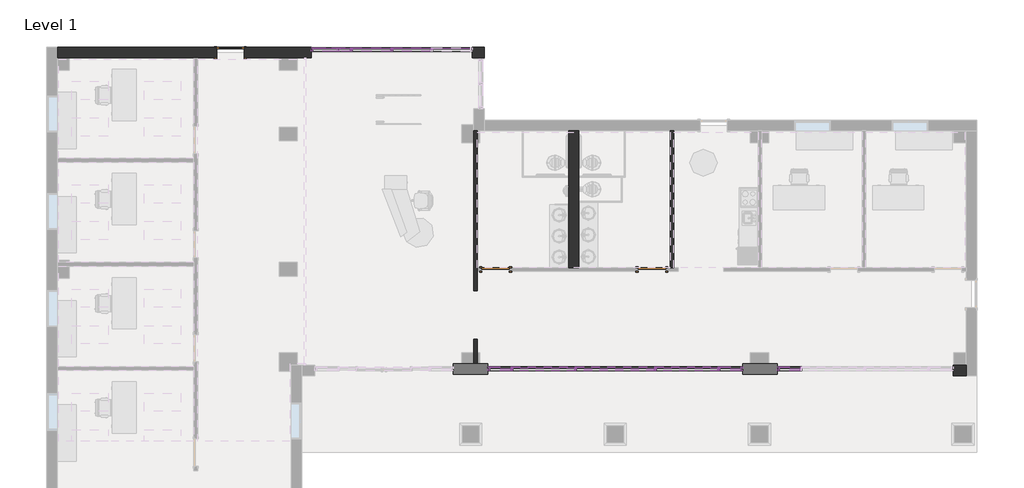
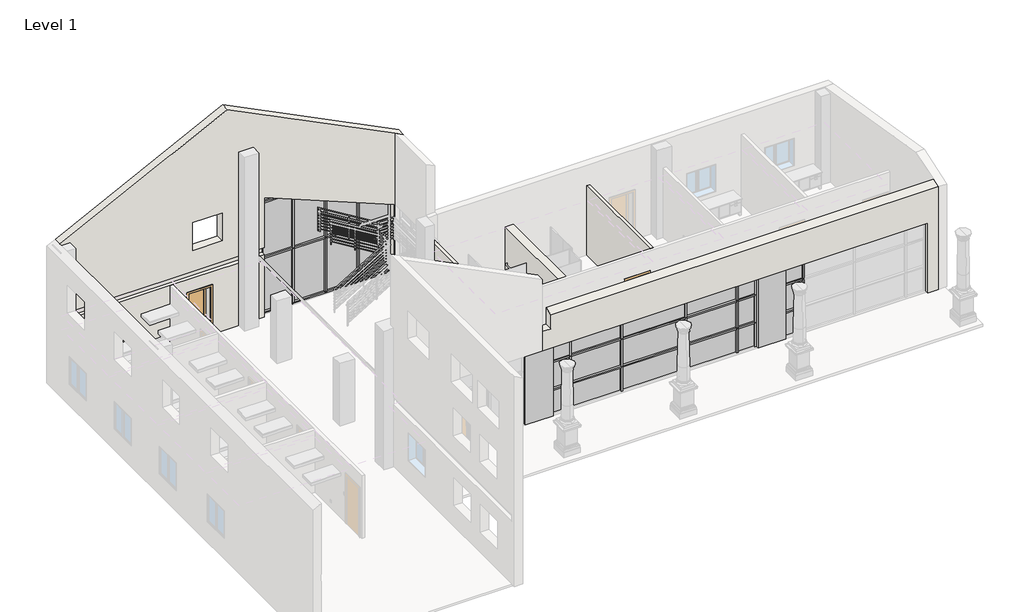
# One storey, part 2 of 8: 63 members, 29 plates, 6 walls, 3 doors.
"""IFC4 building model written with IfcOpenShell, lengths in millimetres."""

from ifc_helpers import new_model, si_unit, origin, origin_with_axes, place, context, project, spatial, polyline, outline, extrude, faceted_brep, transform, mapped, element, save
from components import door_eb9f8b14, door_88503111, door_2118299b, member_a715cb85, member_2b49869a, member_4f1c84db, member_e69b4e5a, member_c7c5a8a0, member_13dc6413, member_3374d9b6, member_830c086e, member_f0fea5a5, member_ee409385, member_d635bea1, member_5783932f, member_ba1b3d85, member_98b79ab6, member_3ca69e07, member_308ea782, member_d4faf497, member_0a1949f2, member_c8a9c9a2, member_c459f87c, member_c4c0bdfb, member_631b13d6, member_2dfc6920, system_panel_glazed_93fe6fa7, system_panel_glazed_6ce5e085, system_panel_glazed_63f474c4, system_panel_glazed_4b691734, system_panel_glazed_53b4157c, system_panel_glazed_7b5ce646, system_panel_glazed_2dd6ead6, system_panel_glazed_6caac039, system_panel_glazed_ef97d2b3, system_panel_glazed_72e0a84c, system_panel_glazed_84a4ac58, system_panel_glazed_729bb18e, system_panel_glazed_b58b5e35, system_panel_glazed_53edb0c8, system_panel_solid_6039f36e, system_panel_solid_0ed6c75d

model = new_model("IFC4")

# Units and contexts
model_context = context("Model", 3, world=origin())
ifc_project = project(units=[si_unit("LENGTHUNIT", "METRE", prefix="MILLI")], contexts=[model_context])

# Site, building, storey
site = spatial("IfcSite", under=ifc_project)
building = spatial("IfcBuilding", under=site)
storey = spatial("IfcBuildingStorey", under=building, Name="Level 1", Elevation=0.0)

# Doors
placement = place(None, origin())
door_shape = door_eb9f8b14(model_context)
element("IfcDoor", 1, ObjectType="Single-Flush : 36\" x 84\"", at=placement, inside=storey, context=model_context, shape_type="MappedRepresentation", body=[
    mapped(door_shape, transform((1075.2733448, 3496.4480424, 0.0), x_axis=(-1.0, 0.0, 0.0), y_axis=(0.0, -1.0, 0.0), z_axis=(0.0, 0.0, 1.0))),
])
door_2_shape = door_88503111(model_context)
element("IfcDoor", 2, ObjectType="Single-Flush : 36\" x 84\"", at=placement, inside=storey, context=model_context, shape_type="MappedRepresentation", body=[
    mapped(door_2_shape, transform((6294.9733448, 3496.4480424, 0.0), x_axis=(1.0, 0.0, 0.0), y_axis=(0.0, 1.0, 0.0), z_axis=(0.0, 0.0, 1.0))),
])
door_3_shape = door_2118299b(model_context)
element("IfcDoor", 3, ObjectType="Single-Glass 1 : 36\" x 84\"", at=placement, inside=storey, context=model_context, shape_type="MappedRepresentation", body=[
    mapped(door_3_shape, transform((-7789.3266552, 10744.9730424, 0.0), x_axis=(-1.0, 0.0, 0.0), y_axis=(0.0, -1.0, 0.0), z_axis=(0.0, 0.0, 1.0))),
])

# Members
member_shape = member_a715cb85(model_context)
element("IfcMember", 4, ObjectType="Rectangular Mullion : 2.5\" x 5\" Rectangular", at=placement, inside=storey, context=model_context, shape_type="MappedRepresentation", body=[
    mapped(member_shape, transform((1611.8483448, 175.3980424, 0.0), x_axis=(1.0, 0.0, 0.0), y_axis=(0.0, -1.0, 0.0), z_axis=(0.0, 0.0, -1.0))),
])
element("IfcMember", 5, ObjectType="Rectangular Mullion : 2.5\" x 5\" Rectangular", at=placement, inside=storey, context=model_context, shape_type="MappedRepresentation", body=[
    mapped(member_shape, transform((3745.4483448, 175.3980424, 0.0), x_axis=(1.0, 0.0, 0.0), y_axis=(0.0, -1.0, 0.0), z_axis=(0.0, 0.0, -1.0))),
])
element("IfcMember", 6, ObjectType="Rectangular Mullion : 2.5\" x 5\" Rectangular", at=placement, inside=storey, context=model_context, shape_type="MappedRepresentation", body=[
    mapped(member_shape, transform((6404.5108448, 175.3980424, 0.0), x_axis=(1.0, 0.0, 0.0), y_axis=(0.0, -1.0, 0.0), z_axis=(0.0, 0.0, -1.0))),
])
element("IfcMember", 7, ObjectType="Rectangular Mullion : 2.5\" x 5\" Rectangular", at=placement, inside=storey, context=model_context, shape_type="MappedRepresentation", body=[
    mapped(member_shape, transform((849.8483448, 175.3980424, 0.0), x_axis=(1.0, 0.0, 0.0), y_axis=(0.0, -1.0, 0.0), z_axis=(0.0, 0.0, -1.0))),
])
element("IfcMember", 8, ObjectType="Rectangular Mullion : 2.5\" x 5\" Rectangular", at=placement, inside=storey, context=model_context, shape_type="MappedRepresentation", body=[
    mapped(member_shape, transform((8538.1108448, 175.3980424, 0.0), x_axis=(1.0, 0.0, 0.0), y_axis=(0.0, -1.0, 0.0), z_axis=(0.0, 0.0, -1.0))),
])
element("IfcMember", 9, ObjectType="Rectangular Mullion : 2.5\" x 5\" Rectangular", at=placement, inside=storey, context=model_context, shape_type="MappedRepresentation", body=[
    mapped(member_shape, transform((9300.1108448, 175.3980424, 0.0), x_axis=(1.0, 0.0, 0.0), y_axis=(0.0, -1.0, 0.0), z_axis=(0.0, 0.0, -1.0))),
])
element("IfcMember", 10, ObjectType="Rectangular Mullion : 2.5\" x 5\" Rectangular", at=placement, inside=storey, context=model_context, shape_type="MappedRepresentation", body=[
    mapped(member_shape, transform((10519.3108448, 175.3980424, 0.0), x_axis=(1.0, 0.0, 0.0), y_axis=(0.0, -1.0, 0.0), z_axis=(0.0, 0.0, -1.0))),
])
element("IfcMember", 11, ObjectType="Rectangular Mullion : 2.5\" x 5\" Rectangular", at=placement, inside=storey, context=model_context, shape_type="MappedRepresentation", body=[
    mapped(member_shape, transform((11281.3108448, 175.3980424, 0.0), x_axis=(1.0, 0.0, 0.0), y_axis=(0.0, -1.0, 0.0), z_axis=(0.0, 0.0, -1.0))),
])
member_2_shape = member_2b49869a(model_context)
element("IfcMember", 12, ObjectType="Rectangular Mullion : 2.5\" x 5\" Rectangular", at=placement, inside=storey, context=model_context, shape_type="MappedRepresentation", body=[
    mapped(member_2_shape, transform((1611.8483448, 175.3980424, 1066.8), x_axis=(1.0, 0.0, 0.0), y_axis=(0.0, -1.0, 0.0), z_axis=(0.0, 0.0, -1.0))),
])
element("IfcMember", 13, ObjectType="Rectangular Mullion : 2.5\" x 5\" Rectangular", at=placement, inside=storey, context=model_context, shape_type="MappedRepresentation", body=[
    mapped(member_2_shape, transform((3745.4483448, 175.3980424, 1066.8), x_axis=(1.0, 0.0, 0.0), y_axis=(0.0, -1.0, 0.0), z_axis=(0.0, 0.0, -1.0))),
])
element("IfcMember", 14, ObjectType="Rectangular Mullion : 2.5\" x 5\" Rectangular", at=placement, inside=storey, context=model_context, shape_type="MappedRepresentation", body=[
    mapped(member_2_shape, transform((6404.5108448, 175.3980424, 1066.8), x_axis=(1.0, 0.0, 0.0), y_axis=(0.0, -1.0, 0.0), z_axis=(0.0, 0.0, -1.0))),
])
element("IfcMember", 15, ObjectType="Rectangular Mullion : 2.5\" x 5\" Rectangular", at=placement, inside=storey, context=model_context, shape_type="MappedRepresentation", body=[
    mapped(member_2_shape, transform((849.8483448, 175.3980424, 1066.8), x_axis=(1.0, 0.0, 0.0), y_axis=(0.0, -1.0, 0.0), z_axis=(0.0, 0.0, -1.0))),
])
element("IfcMember", 16, ObjectType="Rectangular Mullion : 2.5\" x 5\" Rectangular", at=placement, inside=storey, context=model_context, shape_type="MappedRepresentation", body=[
    mapped(member_2_shape, transform((8538.1108448, 175.3980424, 1066.8), x_axis=(1.0, 0.0, 0.0), y_axis=(0.0, -1.0, 0.0), z_axis=(0.0, 0.0, -1.0))),
])
element("IfcMember", 17, ObjectType="Rectangular Mullion : 2.5\" x 5\" Rectangular", at=placement, inside=storey, context=model_context, shape_type="MappedRepresentation", body=[
    mapped(member_2_shape, transform((9300.1108448, 175.3980424, 1066.8), x_axis=(1.0, 0.0, 0.0), y_axis=(0.0, -1.0, 0.0), z_axis=(0.0, 0.0, -1.0))),
])
element("IfcMember", 18, ObjectType="Rectangular Mullion : 2.5\" x 5\" Rectangular", at=placement, inside=storey, context=model_context, shape_type="MappedRepresentation", body=[
    mapped(member_2_shape, transform((10519.3108448, 175.3980424, 1066.8), x_axis=(1.0, 0.0, 0.0), y_axis=(0.0, -1.0, 0.0), z_axis=(0.0, 0.0, -1.0))),
])
element("IfcMember", 19, ObjectType="Rectangular Mullion : 2.5\" x 5\" Rectangular", at=placement, inside=storey, context=model_context, shape_type="MappedRepresentation", body=[
    mapped(member_2_shape, transform((11281.3108448, 175.3980424, 1066.8), x_axis=(1.0, 0.0, 0.0), y_axis=(0.0, -1.0, 0.0), z_axis=(0.0, 0.0, -1.0))),
])
member_3_shape = member_4f1c84db(model_context)
element("IfcMember", 20, ObjectType="Rectangular Mullion : 2.5\" x 5\" Rectangular", at=placement, inside=storey, context=model_context, shape_type="MappedRepresentation", body=[
    mapped(member_3_shape, transform((3713.6983448, 175.3980424, 2286.0), x_axis=(0.0, 0.0, 1.0), y_axis=(0.0, -1.0, 0.0), z_axis=(1.0, 0.0, 0.0))),
])
element("IfcMember", 21, ObjectType="Rectangular Mullion : 2.5\" x 5\" Rectangular", at=placement, inside=storey, context=model_context, shape_type="MappedRepresentation", body=[
    mapped(member_3_shape, transform((8506.3608448, 175.3980424, 2286.0), x_axis=(0.0, 0.0, 1.0), y_axis=(0.0, -1.0, 0.0), z_axis=(1.0, 0.0, 0.0))),
])
element("IfcMember", 22, ObjectType="Rectangular Mullion : 2.5\" x 5\" Rectangular", at=placement, inside=storey, context=model_context, shape_type="MappedRepresentation", body=[
    mapped(member_3_shape, transform((8506.3608448, 175.3980424, 1066.8), x_axis=(0.0, 0.0, 1.0), y_axis=(0.0, -1.0, 0.0), z_axis=(1.0, 0.0, 0.0))),
])
element("IfcMember", 23, ObjectType="Rectangular Mullion : 2.5\" x 5\" Rectangular", at=placement, inside=storey, context=model_context, shape_type="MappedRepresentation", body=[
    mapped(member_3_shape, transform((3713.6983448, 175.3980424, 1066.8), x_axis=(0.0, 0.0, 1.0), y_axis=(0.0, -1.0, 0.0), z_axis=(1.0, 0.0, 0.0))),
])
member_4_shape = member_e69b4e5a(model_context)
element("IfcMember", 24, ObjectType="Rectangular Mullion : 2.5\" x 5\" Rectangular", at=placement, inside=storey, context=model_context, shape_type="MappedRepresentation", body=[
    mapped(member_4_shape, transform((6372.7608448, 175.3980424, 2286.0), x_axis=(0.0, 0.0, 1.0), y_axis=(0.0, -1.0, 0.0), z_axis=(1.0, 0.0, 0.0))),
])
element("IfcMember", 25, ObjectType="Rectangular Mullion : 2.5\" x 5\" Rectangular", at=placement, inside=storey, context=model_context, shape_type="MappedRepresentation", body=[
    mapped(member_4_shape, transform((6372.7608448, 175.3980424, 1066.8), x_axis=(0.0, 0.0, 1.0), y_axis=(0.0, -1.0, 0.0), z_axis=(1.0, 0.0, 0.0))),
])
member_5_shape = member_c7c5a8a0(model_context)
element("IfcMember", 26, ObjectType="Rectangular Mullion : 2.5\" x 5\" Rectangular", at=placement, inside=storey, context=model_context, shape_type="MappedRepresentation", body=[
    mapped(member_5_shape, transform((1580.0983448, 175.3980424, 2286.0), x_axis=(0.0, 0.0, 1.0), y_axis=(0.0, -1.0, 0.0), z_axis=(1.0, 0.0, 0.0))),
])
element("IfcMember", 27, ObjectType="Rectangular Mullion : 2.5\" x 5\" Rectangular", at=placement, inside=storey, context=model_context, shape_type="MappedRepresentation", body=[
    mapped(member_5_shape, transform((11249.5608448, 175.3980424, 2286.0), x_axis=(0.0, 0.0, 1.0), y_axis=(0.0, -1.0, 0.0), z_axis=(1.0, 0.0, 0.0))),
])
element("IfcMember", 28, ObjectType="Rectangular Mullion : 2.5\" x 5\" Rectangular", at=placement, inside=storey, context=model_context, shape_type="MappedRepresentation", body=[
    mapped(member_5_shape, transform((9268.3608448, 175.3980424, 2286.0), x_axis=(0.0, 0.0, 1.0), y_axis=(0.0, -1.0, 0.0), z_axis=(1.0, 0.0, 0.0))),
])
element("IfcMember", 29, ObjectType="Rectangular Mullion : 2.5\" x 5\" Rectangular", at=placement, inside=storey, context=model_context, shape_type="MappedRepresentation", body=[
    mapped(member_5_shape, transform((11249.5608448, 175.3980424, 1066.8), x_axis=(0.0, 0.0, 1.0), y_axis=(0.0, -1.0, 0.0), z_axis=(1.0, 0.0, 0.0))),
])
element("IfcMember", 30, ObjectType="Rectangular Mullion : 2.5\" x 5\" Rectangular", at=placement, inside=storey, context=model_context, shape_type="MappedRepresentation", body=[
    mapped(member_5_shape, transform((1580.0983448, 175.3980424, 1066.8), x_axis=(0.0, 0.0, 1.0), y_axis=(0.0, -1.0, 0.0), z_axis=(1.0, 0.0, 0.0))),
])
element("IfcMember", 31, ObjectType="Rectangular Mullion : 2.5\" x 5\" Rectangular", at=placement, inside=storey, context=model_context, shape_type="MappedRepresentation", body=[
    mapped(member_5_shape, transform((9268.3608448, 175.3980424, 1066.8), x_axis=(0.0, 0.0, 1.0), y_axis=(0.0, -1.0, 0.0), z_axis=(1.0, 0.0, 0.0))),
])
member_6_shape = member_13dc6413(model_context)
element("IfcMember", 32, ObjectType="Rectangular Mullion : 2.5\" x 5\" Rectangular", at=placement, inside=storey, context=model_context, shape_type="MappedRepresentation", body=[
    mapped(member_6_shape, transform((9331.8608448, 175.3980424, 3060.0), x_axis=(0.0, 0.0, 1.0), y_axis=(0.0, -1.0, 0.0), z_axis=(1.0, 0.0, 0.0))),
])
element("IfcMember", 33, ObjectType="Rectangular Mullion : 2.5\" x 5\" Rectangular", at=placement, inside=storey, context=model_context, shape_type="MappedRepresentation", body=[
    mapped(member_6_shape, transform((11281.3108448, 175.3980424, 3060.0), x_axis=(0.0, 0.0, 1.0), y_axis=(0.0, -1.0, 0.0), z_axis=(1.0, 0.0, 0.0))),
])
element("IfcMember", 34, ObjectType="Rectangular Mullion : 2.5\" x 5\" Rectangular", at=placement, inside=storey, context=model_context, shape_type="MappedRepresentation", body=[
    mapped(member_6_shape, transform((1611.8483448, 175.3980424, 3060.0), x_axis=(0.0, 0.0, 1.0), y_axis=(0.0, -1.0, 0.0), z_axis=(1.0, 0.0, 0.0))),
])
member_7_shape = member_3374d9b6(model_context)
element("IfcMember", 35, ObjectType="Rectangular Mullion : 2.5\" x 5\" Rectangular", at=placement, inside=storey, context=model_context, shape_type="MappedRepresentation", body=[
    mapped(member_7_shape, transform((3745.4483448, 175.3980424, 3060.0), x_axis=(0.0, 0.0, 1.0), y_axis=(0.0, -1.0, 0.0), z_axis=(1.0, 0.0, 0.0))),
])
element("IfcMember", 36, ObjectType="Rectangular Mullion : 2.5\" x 5\" Rectangular", at=placement, inside=storey, context=model_context, shape_type="MappedRepresentation", body=[
    mapped(member_7_shape, transform((8538.1108448, 175.3980424, 3060.0), x_axis=(0.0, 0.0, 1.0), y_axis=(0.0, -1.0, 0.0), z_axis=(1.0, 0.0, 0.0))),
])
member_8_shape = member_830c086e(model_context)
element("IfcMember", 37, ObjectType="Rectangular Mullion : 2.5\" x 5\" Rectangular", at=placement, inside=storey, context=model_context, shape_type="MappedRepresentation", body=[
    mapped(member_8_shape, transform((6404.5108448, 175.3980424, 3060.0), x_axis=(0.0, 0.0, 1.0), y_axis=(0.0, -1.0, 0.0), z_axis=(1.0, 0.0, 0.0))),
])
member_9_shape = member_f0fea5a5(model_context)
element("IfcMember", 38, ObjectType="Rectangular Mullion : 2.5\" x 5\" Rectangular", at=placement, inside=storey, context=model_context, shape_type="MappedRepresentation", body=[
    mapped(member_9_shape, transform((-3747.5516552, 10846.5730424, 0.0), x_axis=(1.0, 0.0, 0.0), y_axis=(0.0, -1.0, 0.0), z_axis=(0.0, 0.0, -1.0))),
])
element("IfcMember", 39, ObjectType="Rectangular Mullion : 2.5\" x 5\" Rectangular", at=placement, inside=storey, context=model_context, shape_type="MappedRepresentation", body=[
    mapped(member_9_shape, transform((-2401.3516552, 10846.5730424, 0.0), x_axis=(1.0, 0.0, 0.0), y_axis=(0.0, -1.0, 0.0), z_axis=(0.0, 0.0, -1.0))),
])
element("IfcMember", 40, ObjectType="Rectangular Mullion : 2.5\" x 5\" Rectangular", at=placement, inside=storey, context=model_context, shape_type="MappedRepresentation", body=[
    mapped(member_9_shape, transform((-1055.1516552, 10846.5730424, 0.0), x_axis=(1.0, 0.0, 0.0), y_axis=(0.0, -1.0, 0.0), z_axis=(0.0, 0.0, -1.0))),
])
member_10_shape = member_ee409385(model_context)
element("IfcMember", 41, ObjectType="Rectangular Mullion : 2.5\" x 5\" Rectangular", at=placement, inside=storey, context=model_context, shape_type="MappedRepresentation", body=[
    mapped(member_10_shape, transform((-5093.7516552, 10846.5730424, 2438.4), x_axis=(-1.0, 0.0, 0.0), y_axis=(0.0, -1.0, 0.0), z_axis=(0.0, 0.0, 1.0))),
])
member_11_shape = member_d635bea1(model_context)
element("IfcMember", 42, ObjectType="Rectangular Mullion : 2.5\" x 5\" Rectangular", at=placement, inside=storey, context=model_context, shape_type="MappedRepresentation", body=[
    mapped(member_11_shape, transform((-5030.2516552, 10846.5730424, 0.0), x_axis=(0.0, 0.0, -1.0), y_axis=(0.0, -1.0, 0.0), z_axis=(-1.0, 0.0, 0.0))),
])
element("IfcMember", 43, ObjectType="Rectangular Mullion : 2.5\" x 5\" Rectangular", at=placement, inside=storey, context=model_context, shape_type="MappedRepresentation", body=[
    mapped(member_11_shape, transform((-1023.4016552, 10846.5730424, 0.0), x_axis=(0.0, 0.0, -1.0), y_axis=(0.0, -1.0, 0.0), z_axis=(-1.0, 0.0, 0.0))),
])
member_12_shape = member_5783932f(model_context)
element("IfcMember", 44, ObjectType="Rectangular Mullion : 2.5\" x 5\" Rectangular", at=placement, inside=storey, context=model_context, shape_type="MappedRepresentation", body=[
    mapped(member_12_shape, transform((-3715.8016552, 10846.5730424, 0.0), x_axis=(0.0, 0.0, -1.0), y_axis=(0.0, -1.0, 0.0), z_axis=(-1.0, 0.0, 0.0))),
])
element("IfcMember", 45, ObjectType="Rectangular Mullion : 2.5\" x 5\" Rectangular", at=placement, inside=storey, context=model_context, shape_type="MappedRepresentation", body=[
    mapped(member_12_shape, transform((-2369.6016552, 10846.5730424, 0.0), x_axis=(0.0, 0.0, -1.0), y_axis=(0.0, -1.0, 0.0), z_axis=(-1.0, 0.0, 0.0))),
])
member_13_shape = member_ba1b3d85(model_context)
element("IfcMember", 46, ObjectType="Rectangular Mullion : 2.5\" x 5\" Rectangular", at=placement, inside=storey, context=model_context, shape_type="MappedRepresentation", body=[
    mapped(member_13_shape, transform((-3779.3016552, 10846.5730424, 2438.4), x_axis=(0.0, 0.0, 1.0), y_axis=(0.0, -1.0, 0.0), z_axis=(1.0, 0.0, 0.0))),
])
member_14_shape = member_98b79ab6(model_context)
element("IfcMember", 47, ObjectType="Rectangular Mullion : 2.5\" x 5\" Rectangular", at=placement, inside=storey, context=model_context, shape_type="MappedRepresentation", body=[
    mapped(member_14_shape, transform((-2433.1016552, 10846.5730424, 2438.4), x_axis=(0.0, 0.0, 1.0), y_axis=(0.0, -1.0, 0.0), z_axis=(1.0, 0.0, 0.0))),
])
element("IfcMember", 48, ObjectType="Rectangular Mullion : 2.5\" x 5\" Rectangular", at=placement, inside=storey, context=model_context, shape_type="MappedRepresentation", body=[
    mapped(member_14_shape, transform((-1086.9016552, 10846.5730424, 2438.4), x_axis=(0.0, 0.0, 1.0), y_axis=(0.0, -1.0, 0.0), z_axis=(1.0, 0.0, 0.0))),
])
element("IfcMember", 49, ObjectType="Rectangular Mullion : 2.5\" x 5\" Rectangular", at=placement, inside=storey, context=model_context, shape_type="MappedRepresentation", body=[
    mapped(member_10_shape, transform((-5093.7516552, 10846.5730424, 4876.8), x_axis=(-1.0, 0.0, 0.0), y_axis=(0.0, -1.0, 0.0), z_axis=(0.0, 0.0, 1.0))),
])
member_15_shape = member_3ca69e07(model_context)
element("IfcMember", 50, ObjectType="Rectangular Mullion : 2.5\" x 5\" Rectangular", at=placement, inside=storey, context=model_context, shape_type="MappedRepresentation", body=[
    mapped(member_15_shape, transform((1611.8483448, 175.3980424, 2286.0), x_axis=(1.0, 0.0, 0.0), y_axis=(0.0, -1.0, 0.0), z_axis=(0.0, 0.0, -1.0))),
])
element("IfcMember", 51, ObjectType="Rectangular Mullion : 2.5\" x 5\" Rectangular", at=placement, inside=storey, context=model_context, shape_type="MappedRepresentation", body=[
    mapped(member_15_shape, transform((3745.4483448, 175.3980424, 2286.0), x_axis=(1.0, 0.0, 0.0), y_axis=(0.0, -1.0, 0.0), z_axis=(0.0, 0.0, -1.0))),
])
element("IfcMember", 52, ObjectType="Rectangular Mullion : 2.5\" x 5\" Rectangular", at=placement, inside=storey, context=model_context, shape_type="MappedRepresentation", body=[
    mapped(member_15_shape, transform((6404.5108448, 175.3980424, 2286.0), x_axis=(1.0, 0.0, 0.0), y_axis=(0.0, -1.0, 0.0), z_axis=(0.0, 0.0, -1.0))),
])
element("IfcMember", 53, ObjectType="Rectangular Mullion : 2.5\" x 5\" Rectangular", at=placement, inside=storey, context=model_context, shape_type="MappedRepresentation", body=[
    mapped(member_15_shape, transform((849.8483448, 175.3980424, 2286.0), x_axis=(1.0, 0.0, 0.0), y_axis=(0.0, -1.0, 0.0), z_axis=(0.0, 0.0, -1.0))),
])
element("IfcMember", 54, ObjectType="Rectangular Mullion : 2.5\" x 5\" Rectangular", at=placement, inside=storey, context=model_context, shape_type="MappedRepresentation", body=[
    mapped(member_15_shape, transform((8538.1108448, 175.3980424, 2286.0), x_axis=(1.0, 0.0, 0.0), y_axis=(0.0, -1.0, 0.0), z_axis=(0.0, 0.0, -1.0))),
])
element("IfcMember", 55, ObjectType="Rectangular Mullion : 2.5\" x 5\" Rectangular", at=placement, inside=storey, context=model_context, shape_type="MappedRepresentation", body=[
    mapped(member_15_shape, transform((9300.1108448, 175.3980424, 2286.0), x_axis=(1.0, 0.0, 0.0), y_axis=(0.0, -1.0, 0.0), z_axis=(0.0, 0.0, -1.0))),
])
element("IfcMember", 56, ObjectType="Rectangular Mullion : 2.5\" x 5\" Rectangular", at=placement, inside=storey, context=model_context, shape_type="MappedRepresentation", body=[
    mapped(member_15_shape, transform((10519.3108448, 175.3980424, 2286.0), x_axis=(1.0, 0.0, 0.0), y_axis=(0.0, -1.0, 0.0), z_axis=(0.0, 0.0, -1.0))),
])
element("IfcMember", 57, ObjectType="Rectangular Mullion : 2.5\" x 5\" Rectangular", at=placement, inside=storey, context=model_context, shape_type="MappedRepresentation", body=[
    mapped(member_15_shape, transform((11281.3108448, 175.3980424, 2286.0), x_axis=(1.0, 0.0, 0.0), y_axis=(0.0, -1.0, 0.0), z_axis=(0.0, 0.0, -1.0))),
])
member_16_shape = member_308ea782(model_context)
element("IfcMember", 58, ObjectType="Rectangular Mullion : 2.5\" x 5\" Rectangular", at=placement, inside=storey, context=model_context, shape_type="MappedRepresentation", body=[
    mapped(member_16_shape, transform((-3747.5516552, 10846.5730424, 4714.8593419), x_axis=(0.3791636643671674, 0.0, 0.9253296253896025), y_axis=(0.0, -1.0, 0.0), z_axis=(0.9253296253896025, 0.0, -0.3791636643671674))),
])
member_17_shape = member_d4faf497(model_context)
element("IfcMember", 59, ObjectType="Rectangular Mullion : 2.5\" x 5\" Rectangular", at=placement, inside=storey, context=model_context, shape_type="MappedRepresentation", body=[
    mapped(member_17_shape, transform((-2401.3516552, 10846.5730424, 4163.2395613), x_axis=(0.37916366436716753, 0.0, 0.9253296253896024), y_axis=(0.0, -1.0, 0.0), z_axis=(0.9253296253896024, 0.0, -0.37916366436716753))),
])
element("IfcMember", 60, ObjectType="Rectangular Mullion : 2.5\" x 5\" Rectangular", at=placement, inside=storey, context=model_context, shape_type="MappedRepresentation", body=[
    mapped(member_17_shape, transform((-1055.1516552, 10846.5730424, 3611.6197806), x_axis=(0.37916366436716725, 0.0, 0.9253296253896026), y_axis=(0.0, -1.0, 0.0), z_axis=(0.9253296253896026, 0.0, -0.37916366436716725))),
])
member_18_shape = member_0a1949f2(model_context)
element("IfcMember", 61, ObjectType="Rectangular Mullion : 2.5\" x 5\" Rectangular", at=placement, inside=storey, context=model_context, shape_type="MappedRepresentation", body=[
    mapped(member_18_shape, transform((-3747.5516552, 10846.5730424, 2438.4), x_axis=(1.0, 0.0, 0.0), y_axis=(0.0, -1.0, 0.0), z_axis=(0.0, 0.0, -1.0))),
])
member_19_shape = member_c8a9c9a2(model_context)
element("IfcMember", 62, ObjectType="Rectangular Mullion : 2.5\" x 5\" Rectangular", at=placement, inside=storey, context=model_context, shape_type="MappedRepresentation", body=[
    mapped(member_19_shape, transform((-2401.3516552, 10846.5730424, 2438.4), x_axis=(1.0, 0.0, 0.0), y_axis=(0.0, -1.0, 0.0), z_axis=(0.0, 0.0, -1.0))),
])
member_20_shape = member_c459f87c(model_context)
element("IfcMember", 63, ObjectType="Rectangular Mullion : 2.5\" x 5\" Rectangular", at=placement, inside=storey, context=model_context, shape_type="MappedRepresentation", body=[
    mapped(member_20_shape, transform((-1055.1516552, 10846.5730424, 2438.4), x_axis=(1.0, 0.0, 0.0), y_axis=(0.0, -1.0, 0.0), z_axis=(0.0, 0.0, -1.0))),
])
member_21_shape = member_c4c0bdfb(model_context)
element("IfcMember", 64, ObjectType="Rectangular Mullion : 2.5\" x 5\" Rectangular", at=placement, inside=storey, context=model_context, shape_type="MappedRepresentation", body=[
    mapped(member_21_shape, transform((-4142.7595893, 10846.5730424, 4876.8), x_axis=(0.37916366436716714, 0.0, 0.9253296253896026), y_axis=(0.0, -1.0, 0.0), z_axis=(0.9253296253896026, 0.0, -0.37916366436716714))),
])
member_22_shape = member_631b13d6(model_context)
element("IfcMember", 65, ObjectType="Rectangular Mullion : 2.5\" x 5\" Rectangular", at=placement, inside=storey, context=model_context, shape_type="MappedRepresentation", body=[
    mapped(member_22_shape, transform((-4142.7595893, 10846.5730424, 4876.8), x_axis=(0.0, 0.0, 1.0), y_axis=(0.0, -1.0, 0.0), z_axis=(1.0, 0.0, 0.0))),
])
member_23_shape = member_2dfc6920(model_context)
element("IfcMember", 66, ObjectType="Rectangular Mullion : 2.5\" x 5\" Rectangular", at=placement, inside=storey, context=model_context, shape_type="MappedRepresentation", body=[
    mapped(member_23_shape, transform((-5093.7516552, 10846.5730424, 5266.4791225), x_axis=(-1.0, 0.0, 0.0), y_axis=(0.0, -1.0, 0.0), z_axis=(0.0, 0.0, 1.0))),
])

# Plates
element("IfcPlate", 67, ObjectType="Exterior - Brick on Mtl. Stud", at=placement, inside=storey, context=model_context, shape_type="Brep", body=[
    faceted_brep([(-337.6016552, -0.8144576, 0.0), (818.0983448, -0.8144576, 0.0), (818.0983448, -0.8144576, 3060.0), (-337.6016552, -0.8144576, 3060.0), (-337.6016552, 351.6105424, 0.0), (-337.6016552, 351.6105424, 3060.0), (-64.5516552, 351.6105424, 3060.0), (341.8483448, 351.6105424, 3060.0), (465.6733448, 351.6105424, 3060.0), (545.0483448, 351.6105424, 3060.0), (818.0983448, 351.6105424, 3060.0), (818.0983448, 351.6105424, 0.0), (545.0483448, 351.6105424, 0.0), (465.6733448, 351.6105424, 0.0), (341.8483448, 351.6105424, 0.0), (-64.5516552, 351.6105424, 0.0)], [[[0, 1, 2, 3]], [[4, 5, 6, 7, 8, 9, 10, 11, 12, 13, 14, 15]], [[1, 0, 4, 15, 14, 13, 12, 11]], [[2, 1, 11, 10]], [[3, 2, 10, 9, 8, 7, 6, 5]], [[0, 3, 5, 4]]]),
])
element("IfcPlate", 68, ObjectType="Exterior - Brick on Mtl. Stud", at=placement, inside=storey, context=model_context, shape_type="Brep", body=[
    faceted_brep([(9331.8608448, -0.8144576, 0.0), (10487.5608448, -0.8144576, 0.0), (10487.5608448, -0.8144576, 3060.0), (9331.8608448, -0.8144576, 3060.0), (9331.8608448, 351.6105424, 0.0), (9331.8608448, 351.6105424, 3060.0), (9587.4483448, 351.6105424, 3060.0), (10197.0483448, 351.6105424, 3060.0), (10487.5608448, 351.6105424, 3060.0), (10487.5608448, 351.6105424, 0.0), (10197.0483448, 351.6105424, 0.0), (9587.4483448, 351.6105424, 0.0)], [[[0, 1, 2, 3]], [[4, 5, 6, 7, 8, 9, 10, 11]], [[1, 0, 4, 11, 10, 9]], [[2, 1, 9, 8]], [[3, 2, 8, 7, 6, 5]], [[0, 3, 5, 4]]]),
])
system_panel_glazed_shape = system_panel_glazed_93fe6fa7(model_context)
element("IfcPlate", 69, ObjectType="System Panel : Glazed", at=placement, inside=storey, context=model_context, shape_type="MappedRepresentation", body=[
    mapped(system_panel_glazed_shape, transform((2678.6483448, 175.3980424, 0.0), x_axis=(1.0, 0.0, 0.0), y_axis=(0.0, 1.0, 0.0), z_axis=(0.0, 0.0, 1.0))),
])
element("IfcPlate", 70, ObjectType="System Panel : Glazed", at=placement, inside=storey, context=model_context, shape_type="MappedRepresentation", body=[
    mapped(system_panel_glazed_shape, transform((7471.3108448, 175.3980424, 0.0), x_axis=(1.0, 0.0, 0.0), y_axis=(0.0, 1.0, 0.0), z_axis=(0.0, 0.0, 1.0))),
])
system_panel_glazed_2_shape = system_panel_glazed_6ce5e085(model_context)
element("IfcPlate", 71, ObjectType="System Panel : Glazed", at=placement, inside=storey, context=model_context, shape_type="MappedRepresentation", body=[
    mapped(system_panel_glazed_2_shape, transform((2678.6483448, 175.3980424, 1098.55), x_axis=(1.0, 0.0, 0.0), y_axis=(0.0, 1.0, 0.0), z_axis=(0.0, 0.0, 1.0))),
])
element("IfcPlate", 72, ObjectType="System Panel : Glazed", at=placement, inside=storey, context=model_context, shape_type="MappedRepresentation", body=[
    mapped(system_panel_glazed_2_shape, transform((7471.3108448, 175.3980424, 1098.55), x_axis=(1.0, 0.0, 0.0), y_axis=(0.0, 1.0, 0.0), z_axis=(0.0, 0.0, 1.0))),
])
system_panel_glazed_3_shape = system_panel_glazed_63f474c4(model_context)
element("IfcPlate", 73, ObjectType="System Panel : Glazed", at=placement, inside=storey, context=model_context, shape_type="MappedRepresentation", body=[
    mapped(system_panel_glazed_3_shape, transform((5074.9795948, 175.3980424, 0.0), x_axis=(1.0, 0.0, 0.0), y_axis=(0.0, 1.0, 0.0), z_axis=(0.0, 0.0, 1.0))),
])
system_panel_glazed_4_shape = system_panel_glazed_4b691734(model_context)
element("IfcPlate", 74, ObjectType="System Panel : Glazed", at=placement, inside=storey, context=model_context, shape_type="MappedRepresentation", body=[
    mapped(system_panel_glazed_4_shape, transform((5074.9795948, 175.3980424, 1098.55), x_axis=(1.0, 0.0, 0.0), y_axis=(0.0, 1.0, 0.0), z_axis=(0.0, 0.0, 1.0))),
])
system_panel_glazed_5_shape = system_panel_glazed_53b4157c(model_context)
element("IfcPlate", 75, ObjectType="System Panel : Glazed", at=placement, inside=storey, context=model_context, shape_type="MappedRepresentation", body=[
    mapped(system_panel_glazed_5_shape, transform((1230.8483448, 175.3980424, 0.0), x_axis=(1.0, 0.0, 0.0), y_axis=(0.0, 1.0, 0.0), z_axis=(0.0, 0.0, 1.0))),
])
element("IfcPlate", 76, ObjectType="System Panel : Glazed", at=placement, inside=storey, context=model_context, shape_type="MappedRepresentation", body=[
    mapped(system_panel_glazed_5_shape, transform((10900.3108448, 175.3980424, 0.0), x_axis=(1.0, 0.0, 0.0), y_axis=(0.0, 1.0, 0.0), z_axis=(0.0, 0.0, 1.0))),
])
element("IfcPlate", 77, ObjectType="System Panel : Glazed", at=placement, inside=storey, context=model_context, shape_type="MappedRepresentation", body=[
    mapped(system_panel_glazed_5_shape, transform((8919.1108448, 175.3980424, 0.0), x_axis=(1.0, 0.0, 0.0), y_axis=(0.0, 1.0, 0.0), z_axis=(0.0, 0.0, 1.0))),
])
system_panel_glazed_6_shape = system_panel_glazed_7b5ce646(model_context)
element("IfcPlate", 78, ObjectType="System Panel : Glazed", at=placement, inside=storey, context=model_context, shape_type="MappedRepresentation", body=[
    mapped(system_panel_glazed_6_shape, transform((1230.8483448, 175.3980424, 1098.55), x_axis=(1.0, 0.0, 0.0), y_axis=(0.0, 1.0, 0.0), z_axis=(0.0, 0.0, 1.0))),
])
element("IfcPlate", 79, ObjectType="System Panel : Glazed", at=placement, inside=storey, context=model_context, shape_type="MappedRepresentation", body=[
    mapped(system_panel_glazed_6_shape, transform((10900.3108448, 175.3980424, 1098.55), x_axis=(1.0, 0.0, 0.0), y_axis=(0.0, 1.0, 0.0), z_axis=(0.0, 0.0, 1.0))),
])
element("IfcPlate", 80, ObjectType="System Panel : Glazed", at=placement, inside=storey, context=model_context, shape_type="MappedRepresentation", body=[
    mapped(system_panel_glazed_6_shape, transform((8919.1108448, 175.3980424, 1098.55), x_axis=(1.0, 0.0, 0.0), y_axis=(0.0, 1.0, 0.0), z_axis=(0.0, 0.0, 1.0))),
])
system_panel_glazed_7_shape = system_panel_glazed_2dd6ead6(model_context)
element("IfcPlate", 81, ObjectType="System Panel : Glazed", at=placement, inside=storey, context=model_context, shape_type="MappedRepresentation", body=[
    mapped(system_panel_glazed_7_shape, transform((-4404.7766552, 10846.5730424, 63.5), x_axis=(1.0, 0.0, 0.0), y_axis=(0.0, 1.0, 0.0), z_axis=(0.0, 0.0, 1.0))),
])
element("IfcPlate", 82, ObjectType="System Panel : Glazed", at=placement, inside=storey, context=model_context, shape_type="MappedRepresentation", body=[
    mapped(system_panel_glazed_7_shape, transform((-397.9266552, 10846.5730424, 63.5), x_axis=(1.0, 0.0, 0.0), y_axis=(0.0, 1.0, 0.0), z_axis=(0.0, 0.0, 1.0))),
])
system_panel_glazed_8_shape = system_panel_glazed_6caac039(model_context)
element("IfcPlate", 83, ObjectType="System Panel : Glazed", at=placement, inside=storey, context=model_context, shape_type="MappedRepresentation", body=[
    mapped(system_panel_glazed_8_shape, transform((-3074.4516552, 10846.5730424, 63.5), x_axis=(1.0, 0.0, 0.0), y_axis=(0.0, 1.0, 0.0), z_axis=(0.0, 0.0, 1.0))),
])
element("IfcPlate", 84, ObjectType="System Panel : Glazed", at=placement, inside=storey, context=model_context, shape_type="MappedRepresentation", body=[
    mapped(system_panel_glazed_8_shape, transform((-1728.2516552, 10846.5730424, 63.5), x_axis=(1.0, 0.0, 0.0), y_axis=(0.0, 1.0, 0.0), z_axis=(0.0, 0.0, 1.0))),
])
system_panel_glazed_9_shape = system_panel_glazed_ef97d2b3(model_context)
element("IfcPlate", 85, ObjectType="System Panel : Glazed", at=placement, inside=storey, context=model_context, shape_type="MappedRepresentation", body=[
    mapped(system_panel_glazed_9_shape, transform((2678.6483448, 175.3980424, 2317.75), x_axis=(1.0, 0.0, 0.0), y_axis=(0.0, 1.0, 0.0), z_axis=(0.0, 0.0, 1.0))),
])
element("IfcPlate", 86, ObjectType="System Panel : Glazed", at=placement, inside=storey, context=model_context, shape_type="MappedRepresentation", body=[
    mapped(system_panel_glazed_9_shape, transform((7471.3108448, 175.3980424, 2317.75), x_axis=(1.0, 0.0, 0.0), y_axis=(0.0, 1.0, 0.0), z_axis=(0.0, 0.0, 1.0))),
])
system_panel_glazed_10_shape = system_panel_glazed_72e0a84c(model_context)
element("IfcPlate", 87, ObjectType="System Panel : Glazed", at=placement, inside=storey, context=model_context, shape_type="MappedRepresentation", body=[
    mapped(system_panel_glazed_10_shape, transform((-4404.7766552, 10846.5730424, 2470.15), x_axis=(1.0, 0.0, 0.0), y_axis=(0.0, 1.0, 0.0), z_axis=(0.0, 0.0, 1.0))),
])
system_panel_glazed_11_shape = system_panel_glazed_84a4ac58(model_context)
element("IfcPlate", 88, ObjectType="System Panel : Glazed", at=placement, inside=storey, context=model_context, shape_type="MappedRepresentation", body=[
    mapped(system_panel_glazed_11_shape, transform((-3074.4516552, 10846.5730424, 2470.15), x_axis=(1.0, 0.0, 0.0), y_axis=(0.0, 1.0, 0.0), z_axis=(0.0, 0.0, 1.0))),
])
system_panel_glazed_12_shape = system_panel_glazed_729bb18e(model_context)
element("IfcPlate", 89, ObjectType="System Panel : Glazed", at=placement, inside=storey, context=model_context, shape_type="MappedRepresentation", body=[
    mapped(system_panel_glazed_12_shape, transform((-1728.2516552, 10846.5730424, 2470.15), x_axis=(1.0, 0.0, 0.0), y_axis=(0.0, 1.0, 0.0), z_axis=(0.0, 0.0, 1.0))),
])
system_panel_glazed_13_shape = system_panel_glazed_b58b5e35(model_context)
element("IfcPlate", 90, ObjectType="System Panel : Glazed", at=placement, inside=storey, context=model_context, shape_type="MappedRepresentation", body=[
    mapped(system_panel_glazed_13_shape, transform((-397.9266552, 10846.5730424, 2470.15), x_axis=(1.0, 0.0, 0.0), y_axis=(0.0, 1.0, 0.0), z_axis=(0.0, 0.0, 1.0))),
])
system_panel_glazed_14_shape = system_panel_glazed_53edb0c8(model_context)
element("IfcPlate", 91, ObjectType="System Panel : Glazed", at=placement, inside=storey, context=model_context, shape_type="MappedRepresentation", body=[
    mapped(system_panel_glazed_14_shape, transform((-4708.9846786, 10846.5730424, 4908.55), x_axis=(1.0, 0.0, 0.0), y_axis=(0.0, 1.0, 0.0), z_axis=(0.0, 0.0, 1.0))),
])
system_panel_solid_shape = system_panel_solid_6039f36e(model_context)
element("IfcPlate", 92, ObjectType="System Panel : Solid", at=placement, inside=storey, context=model_context, shape_type="MappedRepresentation", body=[
    mapped(system_panel_solid_shape, transform((1230.8483448, 175.3980424, 2317.75), x_axis=(1.0, 0.0, 0.0), y_axis=(0.0, 1.0, 0.0), z_axis=(0.0, 0.0, 1.0))),
])
element("IfcPlate", 93, ObjectType="System Panel : Solid", at=placement, inside=storey, context=model_context, shape_type="MappedRepresentation", body=[
    mapped(system_panel_solid_shape, transform((10900.3108448, 175.3980424, 2317.75), x_axis=(1.0, 0.0, 0.0), y_axis=(0.0, 1.0, 0.0), z_axis=(0.0, 0.0, 1.0))),
])
element("IfcPlate", 94, ObjectType="System Panel : Solid", at=placement, inside=storey, context=model_context, shape_type="MappedRepresentation", body=[
    mapped(system_panel_solid_shape, transform((8919.1108448, 175.3980424, 2317.75), x_axis=(1.0, 0.0, 0.0), y_axis=(0.0, 1.0, 0.0), z_axis=(0.0, 0.0, 1.0))),
])
system_panel_solid_2_shape = system_panel_solid_0ed6c75d(model_context)
element("IfcPlate", 95, ObjectType="System Panel : Solid", at=placement, inside=storey, context=model_context, shape_type="MappedRepresentation", body=[
    mapped(system_panel_solid_2_shape, transform((5074.9795948, 175.3980424, 2317.75), x_axis=(1.0, 0.0, 0.0), y_axis=(0.0, 1.0, 0.0), z_axis=(0.0, 0.0, 1.0))),
])

# Walls
element("IfcWall", 96, ObjectType="Exterior - Brick on Mtl. Stud", at=placement, inside=storey, context=model_context, shape_type="Brep", body=[
    faceted_brep([(-8246.5266552, 10568.7605424, 0.0), (-8246.5266552, 10568.7605424, 2133.6), (-7332.1266552, 10568.7605424, 2133.6), (-7332.1266552, 10568.7605424, 0.0), (-6160.5516552, 10568.7605424, 0.0), (-5550.9516552, 10568.7605424, 0.0), (-5093.7516552, 10568.7605424, 0.0), (-5093.7516552, 10568.7605424, 2755.2), (-5273.1391552, 10568.7605424, 2755.2), (-5323.9391552, 10568.7605424, 2755.2), (-8887.8766552, 10568.7605424, 2755.2), (-9011.7016552, 10568.7605424, 2755.2), (-13583.7016552, 10568.7605424, 2755.2), (-13583.7016552, 10568.7605424, 0.0), (-13170.9516552, 10568.7605424, 0.0), (-9011.7016552, 10568.7605424, 0.0), (-8887.8766552, 10568.7605424, 0.0), (694.2733448, 10568.7605424, 6006.3375), (341.8483448, 10568.7605424, 6182.55), (-6620.9266552, 10568.7605424, 9663.9375), (-8887.8766552, 10568.7605424, 8530.4625), (-9011.7016552, 10568.7605424, 8468.55), (-13583.7016552, 10568.7605424, 6182.55), (-13583.7016552, 10568.7605424, 6100.0), (-13583.7016552, 10568.7605424, 3060.0), (-9011.7016552, 10568.7605424, 3060.0), (-8887.8766552, 10568.7605424, 3060.0), (-5093.7516552, 10568.7605424, 3060.0), (-5093.7516552, 10568.7605424, 5266.4791225), (291.0483448, 10568.7605424, 3060.0), (291.0483448, 10568.7605424, 0.0), (341.8483448, 10568.7605424, 0.0), (694.2733448, 10568.7605424, 0.0), (-6836.8266552, 10568.7605424, 5193.6), (-6836.8266552, 10568.7605424, 3974.4), (-8056.0266552, 10568.7605424, 3974.4), (-8056.0266552, 10568.7605424, 5193.6), (-8246.5266552, 10921.1855424, 2133.6), (-8246.5266552, 10921.1855424, 0.0), (-13583.7016552, 10921.1855424, 0.0), (-13583.7016552, 10921.1855424, 6182.55), (-6620.9266552, 10921.1855424, 9663.9375), (694.2733448, 10921.1855424, 6006.3375), (694.2733448, 10921.1855424, 0.0), (291.0483448, 10921.1855424, 0.0), (291.0483448, 10921.1855424, 3060.0), (-5093.7516552, 10921.1855424, 5266.4791225), (-5093.7516552, 10921.1855424, 0.0), (-7332.1266552, 10921.1855424, 0.0), (-7332.1266552, 10921.1855424, 2133.6), (-6836.8266552, 10921.1855424, 3974.4), (-6836.8266552, 10921.1855424, 5193.6), (-8056.0266552, 10921.1855424, 5193.6), (-8056.0266552, 10921.1855424, 3974.4), (-5093.7516552, 10733.8605424, 2755.2), (-13583.7016552, 10733.8605424, 2755.2), (-13583.7016552, 10733.8605424, 3060.0), (-5093.7516552, 10733.8605424, 3060.0)], [[[0, 1, 2, 3, 4, 5, 6, 7, 8, 9, 10, 11, 12, 13, 14, 15, 16]], [[17, 18, 19, 20, 21, 22, 23, 24, 25, 26, 27, 28, 29, 30, 31, 32], [33, 34, 35, 36]], [[37, 38, 39, 40, 41, 42, 43, 44, 45, 46, 47, 48, 49], [50, 51, 52, 53]], [[38, 0, 16, 15, 14, 13, 39]], [[3, 48, 47, 6, 5, 4]], [[43, 32, 31, 30, 44]], [[1, 0, 38, 37]], [[2, 1, 37, 49]], [[3, 2, 49, 48]], [[22, 21, 20, 19, 41, 40]], [[19, 18, 17, 42, 41]], [[34, 33, 51, 50]], [[35, 34, 50, 53]], [[36, 35, 53, 52]], [[33, 36, 52, 51]], [[54, 55, 12, 11, 10, 9, 8, 7]], [[56, 57, 27, 26, 25, 24]], [[55, 54, 57, 56]], [[17, 32, 43, 42]], [[22, 40, 39, 13, 12, 55, 56, 24, 23]], [[46, 28, 27, 57, 54, 7, 6, 47]], [[28, 46, 45, 29]], [[29, 45, 44, 30]]]),
])
element("IfcWall", 97, ObjectType="Exterior - Brick on Mtl. Stud", at=placement, inside=storey, context=model_context, shape_type="Brep", body=[
    faceted_brep([(341.8483448, 300.8105424, 3900.0), (694.2733448, 300.8105424, 3900.0), (694.2733448, 300.8105424, 4627.075), (16801.0483448, 300.8105424, 4627.075), (16801.0483448, 300.8105424, 3900.0), (16801.0483448, 300.8105424, 0.0), (16394.6483448, 300.8105424, 0.0), (16367.6608448, 300.8105424, 0.0), (16367.6608448, 300.8105424, 3060.0), (10197.0483448, 300.8105424, 3060.0), (9587.4483448, 300.8105424, 3060.0), (694.2733448, 300.8105424, 3060.0), (341.8483448, 300.8105424, 3060.0), (694.2733448, -51.6144576, 3900.0), (341.8483448, -51.6144576, 3900.0), (341.8483448, -51.6144576, 3060.0), (16367.6608448, -51.6144576, 3060.0), (16367.6608448, -51.6144576, 0.0), (16801.0483448, -51.6144576, 0.0), (16801.0483448, -51.6144576, 4509.6), (694.2733448, -51.6144576, 4509.6)], [[[0, 1, 2, 3, 4, 5, 6, 7, 8, 9, 10, 11, 12]], [[13, 14, 15, 16, 17, 18, 19, 20]], [[5, 18, 17, 7, 6]], [[1, 0, 14, 13]], [[1, 13, 20, 2]], [[3, 2, 20, 19]], [[8, 16, 15, 12, 11, 10, 9]], [[0, 12, 15, 14]], [[5, 4, 3, 19, 18]], [[16, 8, 7, 17]]]),
])
element("IfcWall", 98, ObjectType="Interior - 4 7/8\" Partition (1-hr)", at=placement, inside=storey, context=model_context, shape_type="SweptSolid", body=[
    extrude(outline(polyline([(6904.5733448, 3558.3605424), (6904.5733448, 8130.3605424), (7028.3983448, 8130.3605424), (7028.3983448, 3558.3605424), (6904.5733448, 3558.3605424)])), origin_with_axes(), (0.0, 0.0, 1.0), 3060.0),
])
element("IfcWall", 99, ObjectType="Interior - 4 7/8\" Partition (1-hr)", at=placement, inside=storey, context=model_context, shape_type="Brep", body=[
    faceted_brep([(341.8483448, 8130.3605424, 0.0), (341.8483448, 7723.9605424, 0.0), (341.8483448, 2791.5980424, 0.0), (341.8483448, 2791.5980424, 3060.0), (341.8483448, 8130.3605424, 3060.0), (465.6733448, 8130.3605424, 0.0), (465.6733448, 8130.3605424, 3060.0), (465.6733448, 7723.9605424, 3060.0), (465.6733448, 3558.3605424, 3060.0), (465.6733448, 3434.5355424, 3060.0), (465.6733448, 2791.5980424, 3060.0), (465.6733448, 2791.5980424, 0.0), (465.6733448, 3434.5355424, 0.0), (465.6733448, 3558.3605424, 0.0), (465.6733448, 7723.9605424, 0.0)], [[[0, 1, 2, 3, 4]], [[5, 6, 7, 8, 9, 10, 11, 12, 13, 14]], [[2, 1, 0, 5, 14, 13, 12, 11]], [[3, 2, 11, 10]], [[4, 3, 10, 9, 8, 7, 6]], [[0, 4, 6, 5]]]),
])
element("IfcWall", 100, ObjectType="Interior - 4 7/8\" Partition (1-hr)", at=placement, inside=storey, context=model_context, shape_type="Brep", body=[
    faceted_brep([(341.8483448, 1165.9980424, 0.0), (341.8483448, 707.2105424, 0.0), (341.8483448, 351.6105424, 0.0), (341.8483448, 351.6105424, 3060.0), (341.8483448, 707.2105424, 3060.0), (341.8483448, 1165.9980424, 3060.0), (465.6733448, 1165.9980424, 0.0), (465.6733448, 1165.9980424, 3060.0), (465.6733448, 707.2105424, 3060.0), (465.6733448, 351.6105424, 3060.0), (465.6733448, 351.6105424, 0.0), (465.6733448, 707.2105424, 0.0)], [[[0, 1, 2, 3, 4, 5]], [[6, 7, 8, 9, 10, 11]], [[2, 1, 0, 6, 11, 10]], [[5, 4, 3, 9, 8, 7]], [[0, 5, 7, 6]], [[3, 2, 10, 9]]]),
])
element("IfcWall", 101, ObjectType="Plumbing Wall", at=placement, inside=storey, context=model_context, shape_type="SweptSolid", body=[
    extrude(outline(polyline([(3513.6733448, 3558.3605424), (3513.6733448, 8130.3605424), (3856.5733448, 8130.3605424), (3856.5733448, 3558.3605424), (3513.6733448, 3558.3605424)])), origin_with_axes(), (0.0, 0.0, 1.0), 2438.4),
])

save(model, "model.ifc")
